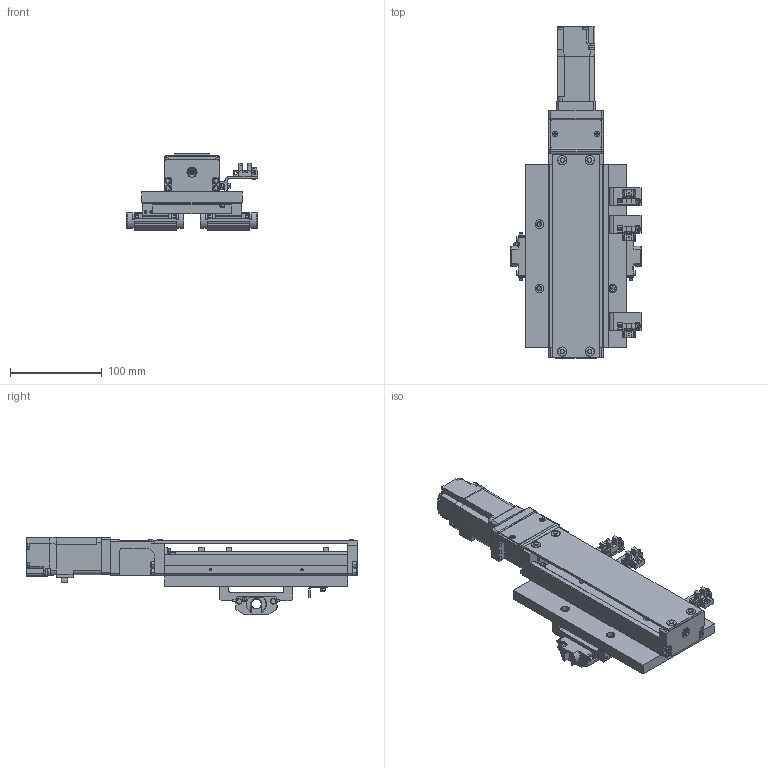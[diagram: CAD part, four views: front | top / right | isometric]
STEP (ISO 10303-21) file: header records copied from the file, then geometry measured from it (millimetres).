
FILE_DESCRIPTION (( 'STEP AP214' ), '1' );
FILE_NAME ('20_X-Y-Theta_mechanism_X.STEP', '2021-02-16T01:32:17', ( '' ), ( '' ), 'SwSTEP 2.0', 'SolidWorks 2017', '' );
FILE_SCHEMA (( 'AUTOMOTIVE_DESIGN' ));
Length unit declared in the file: millimetre
Products named in the file (27): BLOCK 04_LX3010C-S2-A3040-200_1; 0296_004_SENAZ32H-200-V50-W150_1; 0296_005_FPML65_1; 0296_209_Dog_1; 0296_303_SCB5-15_1; 0296_102_Servo_Motor_100W_1; BRACKET1_LX3010C-S2-A3040-200_1; 0296_301_SCB3-10_1; 0296_201_Plate_1; 0296_006_SCPW21-6-8_1; 0296_010_SCBZ3-6_1; 0296_001_LX3010C-S2-A3040-200_1; RALE_LX3010C-S2-A3040-200_1; 0296_011_SQN3-20-8_1; BODY_SCPW21-6-8_1; COVER_LX3010C-S2-A3040-200_1; 0296_302_SCB4-12_1; NEZI-1_SCPW21-6-8_1; 20_X-Y-Theta_mechanism_X; _0296_SA02_1; 0296_001_LX3010C-S2-A3040-200_2_1; 0296_210_Bracket_1; END PLATE2_LX3010C-S2-A3040-200_1; BLOCK S1 COVER_LX3010C-S2-A3040-200_1; A3040_LX3010C-S2-A3040-200_1; _0296_SA01_1; BLOCK S2 COVER_LX3010C-S2-A3040-200_1
Assembly tree (40 placements, depth 5):
  20_X-Y-Theta_mechanism_X
    _0296_SA01_1
      0296_001_LX3010C-S2-A3040-200_1
        BLOCK S1 COVER_LX3010C-S2-A3040-200_1
          BLOCK 04_LX3010C-S2-A3040-200_1
        BLOCK S2 COVER_LX3010C-S2-A3040-200_1
      0296_010_SCBZ3-6_1
      0296_201_Plate_1
      0296_209_Dog_1
      0296_303_SCB5-15_1
    _0296_SA02_1
      0296_001_LX3010C-S2-A3040-200_2_1
        RALE_LX3010C-S2-A3040-200_1
        BRACKET1_LX3010C-S2-A3040-200_1
        END PLATE2_LX3010C-S2-A3040-200_1
        COVER_LX3010C-S2-A3040-200_1
        A3040_LX3010C-S2-A3040-200_1
      0296_004_SENAZ32H-200-V50-W150_1
      0296_005_FPML65_1  x3
      0296_006_SCPW21-6-8_1
        BODY_SCPW21-6-8_1
        NEZI-1_SCPW21-6-8_1  x2
      0296_010_SCBZ3-6_1  x4
      0296_011_SQN3-20-8_1  x3
      0296_102_Servo_Motor_100W_1
      0296_210_Bracket_1  x3
      0296_301_SCB3-10_1  x3
      0296_302_SCB4-12_1
      0296_303_SCB5-15_1
Bounding box: 142.5 x 362.4 x 84.5 mm (x, y, z)
Volume: 820705.1 mm3; surface area: 249547.3 mm2
Topology: 47 solids, 49 shells, 2276 faces, 5748 edges, 3619 vertices
Faces by surface type: plane 1149, cylinder 764, cone 318, torus 31, sphere 14
Entity records: 77542 total; most frequent: CARTESIAN_POINT 10452, DIRECTION 9998, ORIENTED_EDGE 9154, EDGE_CURVE 4577, AXIS2_PLACEMENT_3D 3600, VERTEX_POINT 2941, LINE 2798, VECTOR 2798
